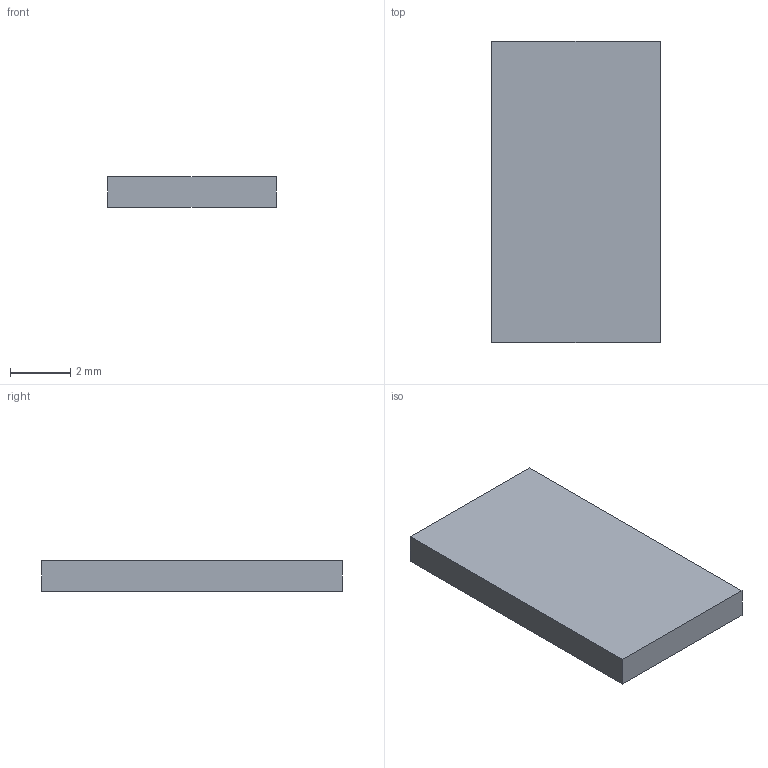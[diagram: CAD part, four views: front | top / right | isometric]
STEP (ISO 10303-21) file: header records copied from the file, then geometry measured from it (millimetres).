
FILE_DESCRIPTION(('Open CASCADE Model'),'2;1');
FILE_NAME('Open CASCADE Shape Model','2026-09-08T13:32:10',('Author'),( 'Open CASCADE'),'Open CASCADE STEP processor 7.7','Open CASCADE 7.7' ,'Unknown');
FILE_SCHEMA(('AUTOMOTIVE_DESIGN { 1 0 10303 214 1 1 1 1 }'));
Length unit declared in the file: millimetre
Products named in the file (1): Open CASCADE STEP translator 7.7 41
Bounding box: 5.6 x 10 x 1 mm (x, y, z)
Volume: 56 mm3; surface area: 143.2 mm2
Topology: 1 solids, 1 shells, 6 faces, 12 edges, 8 vertices
Faces by surface type: plane 6
Entity records: 322 total; most frequent: CARTESIAN_POINT 51, DIRECTION 50, LINE 36, VECTOR 36, ORIENTED_EDGE 24, PCURVE 24, DEFINITIONAL_REPRESENTATION 24, EDGE_CURVE 12
